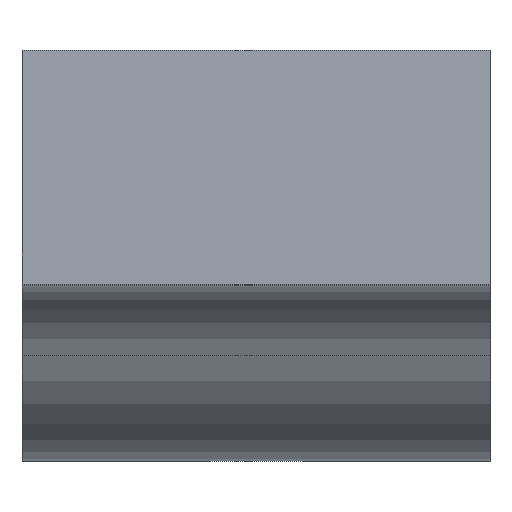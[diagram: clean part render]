
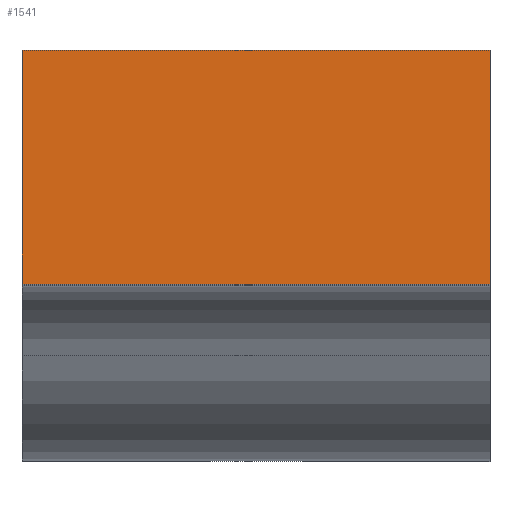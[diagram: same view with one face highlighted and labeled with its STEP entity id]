
A CAD part, top view. The second image highlights one B-rep face of the part: STEP entity #1541.
In plain terms, the highlighted planar face has unit normal (0, 0, 1).
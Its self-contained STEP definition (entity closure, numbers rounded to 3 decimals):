
#160 = VERTEX_POINT ( 'NONE', #194 ) ;
#161 = VERTEX_POINT ( 'NONE', #192 ) ;
#184 = VERTEX_POINT ( 'NONE', #1375 ) ;
#187 = VERTEX_POINT ( 'NONE', #1377 ) ;
#192 = CARTESIAN_POINT ( 'NONE',  ( 20., 10., 40. ) ) ;
#194 = CARTESIAN_POINT ( 'NONE',  ( 0., 0., 40. ) ) ;
#392 = CARTESIAN_POINT ( 'NONE',  ( 0., 10., 40. ) ) ;
#401 = CARTESIAN_POINT ( 'NONE',  ( 20., 0., 40. ) ) ;
#403 = DIRECTION ( 'NONE',  ( 0., -1., 0. ) ) ;
#405 = DIRECTION ( 'NONE',  ( -1., 0., 0. ) ) ;
#424 = AXIS2_PLACEMENT_3D ( 'NONE', #665, #672, #673 ) ;
#520 = CARTESIAN_POINT ( 'NONE',  ( 20., 10., 40. ) ) ;
#521 = DIRECTION ( 'NONE',  ( -1., 0., 0. ) ) ;
#563 = CARTESIAN_POINT ( 'NONE',  ( 20., 10., 40. ) ) ;
#564 = DIRECTION ( 'NONE',  ( 0., -1., 0. ) ) ;
#627 = EDGE_CURVE ( 'NONE', #187, #160, #1249, .T. ) ;
#628 = EDGE_CURVE ( 'NONE', #184, #160, #1245, .T. ) ;
#639 = EDGE_CURVE ( 'NONE', #161, #187, #1252, .T. ) ;
#655 = EDGE_CURVE ( 'NONE', #161, #184, #1282, .T. ) ;
#665 = CARTESIAN_POINT ( 'NONE',  ( 20., 10., 40. ) ) ;
#669 = PLANE ( 'NONE',  #424 ) ;
#672 = DIRECTION ( 'NONE',  ( 0., 0., -1. ) ) ;
#673 = DIRECTION ( 'NONE',  ( -1., 0., 0. ) ) ;
#1001 = ORIENTED_EDGE ( 'NONE', *, *, #639, .T. ) ;
#1002 = ORIENTED_EDGE ( 'NONE', *, *, #655, .F. ) ;
#1003 = ORIENTED_EDGE ( 'NONE', *, *, #628, .F. ) ;
#1004 = ORIENTED_EDGE ( 'NONE', *, *, #627, .T. ) ;
#1238 = VECTOR ( 'NONE', #403, 1000. ) ;
#1245 = LINE ( 'NONE', #401, #1251 ) ;
#1249 = LINE ( 'NONE', #392, #1238 ) ;
#1251 = VECTOR ( 'NONE', #405, 1000. ) ;
#1252 = LINE ( 'NONE', #520, #1266 ) ;
#1266 = VECTOR ( 'NONE', #521, 1000. ) ;
#1282 = LINE ( 'NONE', #563, #1287 ) ;
#1287 = VECTOR ( 'NONE', #564, 1000. ) ;
#1337 = FACE_OUTER_BOUND ( 'NONE', #1586, .T. ) ;
#1375 = CARTESIAN_POINT ( 'NONE',  ( 20., 0., 40. ) ) ;
#1377 = CARTESIAN_POINT ( 'NONE',  ( 0., 10., 40. ) ) ;
#1541 = ADVANCED_FACE ( 'NONE', ( #1337 ), #669, .F. ) ;
#1586 = EDGE_LOOP ( 'NONE', ( #1004, #1003, #1002, #1001 ) ) ;
